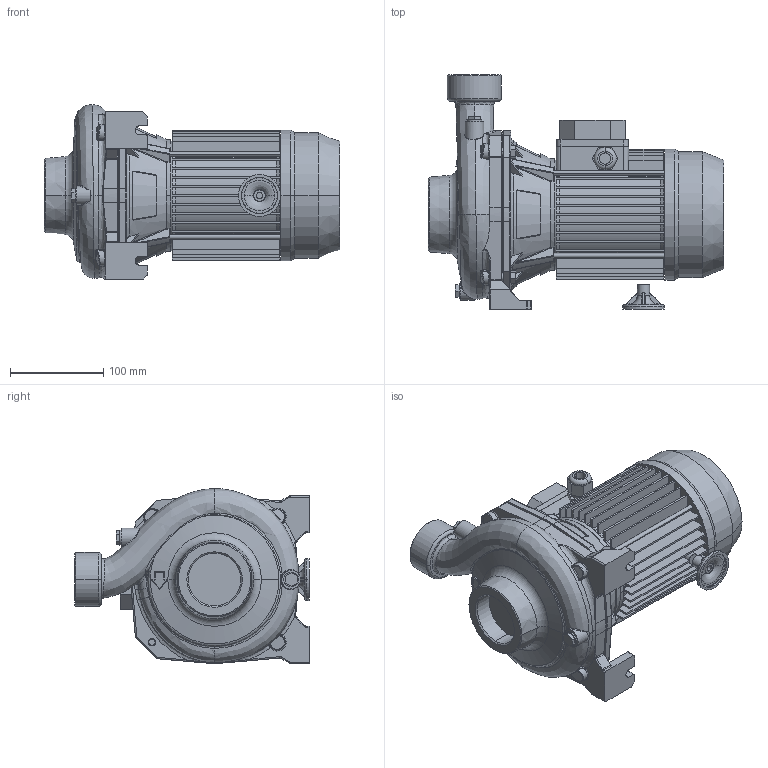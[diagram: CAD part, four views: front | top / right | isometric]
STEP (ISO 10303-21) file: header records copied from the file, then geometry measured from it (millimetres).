
FILE_DESCRIPTION((''),'2;1');
FILE_NAME('CMB_100T_IE3_ASM','2017-06-04T',('rosa'),('"Ebara Pumps Europe +39.444.706811"'),'PRO/ENGINEER BY PARAMETRIC TECHNOLOGY CORPORATION, 2012130','PRO/ENGINEER BY PARAMETRIC TECHNOLOGY CORPORATION, 2012130','');
FILE_SCHEMA(('AUTOMOTIVE_DESIGN { 1 0 10303 214 1 1 1 1 }'));
Length unit declared in the file: millimetre
Products named in the file (6): MEC_71X90_IE3; 80534; 38001; 20521; 72001; CMB_100T_IE3_ASM
Assembly tree (5 placements, depth 2):
  CMB_100T_IE3_ASM
    MEC_71X90_IE3
    80534
    38001
    20521
    72001
Bounding box: 316.8 x 251.5 x 187.58 mm (x, y, z)
Volume: 3841623.5 mm3; surface area: 536794.3 mm2
Topology: 5 solids, 11 shells, 1126 faces, 2723 edges, 1652 vertices
Faces by surface type: plane 448, cylinder 280, bspline 196, cone 106, torus 60, sphere 36
Entity records: 53575 total; most frequent: CARTESIAN_POINT 19981, ORIENTED_EDGE 5418, DIRECTION 4911, EDGE_CURVE 2717, PRESENTATION_STYLE_ASSIGNMENT 2024, STYLED_ITEM 2024, AXIS2_PLACEMENT_3D 1888, CURVE_STYLE 1798
